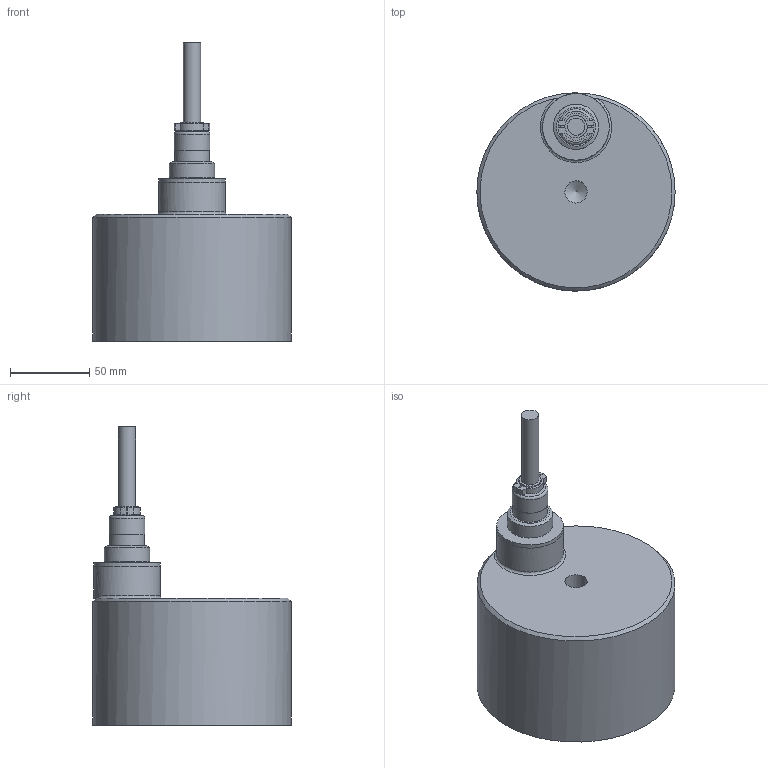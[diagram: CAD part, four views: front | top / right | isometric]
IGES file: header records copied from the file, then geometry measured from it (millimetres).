
Global section: file name: EMH-1-125Dx80H-V; native system: unknown; preprocessor: unknown; author: unknown; organization: unknown; date: 20231215.142532; units: millimetre
Bounding box: 125 x 124.99 x 188 mm (x, y, z)
Volume: 1024478.3 mm3; surface area: 74706.6 mm2
Topology: 8 solids, 8 shells, 118 faces, 254 edges, 167 vertices
Faces by surface type: bspline 118
